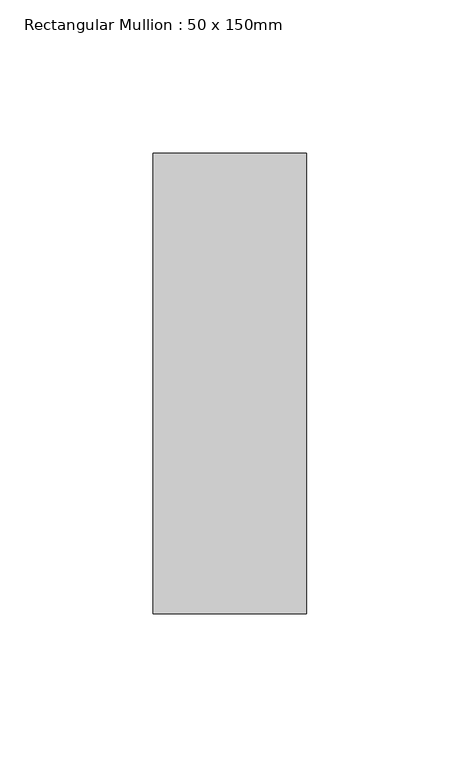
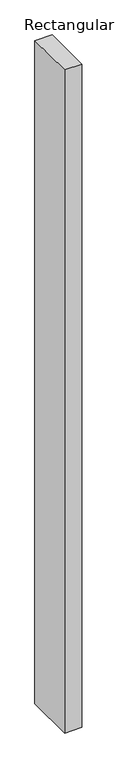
"""IFC4 building model written with IfcOpenShell, lengths in millimetres: member geometry, Rectangular Mullion : 50 x 150mm."""

from ifc_helpers import new_model, si_unit, frame, origin, place, context, project, spatial, polyline, outline, extrude, source, transform, mapped, element, save


def rectangular_mullion_50_x_150mm_0b18dce2(model_context):
    return source(origin(), model_context, "Body", "SweptSolid", [
        extrude(outline(polyline([(25.0, 75.0), (25.0, -75.0), (-25.0, -75.0), (-25.0, 75.0), (25.0, 75.0)])), frame((0.0, 0.0, -2050.0), z_axis=(0.0, 0.0, 1.0), x_axis=(1.0, 0.0, 0.0)), (0.0, 0.0, 1.0), 2050.0),
    ])


if __name__ == "__main__":
    model = new_model("IFC4")
    model_context = context("Model", 3, world=origin())
    ifc_project = project(units=[si_unit("LENGTHUNIT", "METRE", prefix="MILLI")], contexts=[model_context])
    site = spatial("IfcSite", under=ifc_project)
    building = spatial("IfcBuilding", under=site)
    placement = place(None, origin())
    rectangular_mullion_50_x_150mm_shape = rectangular_mullion_50_x_150mm_0b18dce2(model_context)
    element("IfcMember", 1, ObjectType="Rectangular Mullion : 50 x 150mm", at=placement, inside=building, context=model_context, shape_type="MappedRepresentation", body=[
        mapped(rectangular_mullion_50_x_150mm_shape, transform((0.0, 0.0, 0.0), x_axis=(1.0, 0.0, 0.0), y_axis=(0.0, 1.0, 0.0), z_axis=(0.0, 0.0, 1.0))),
    ])
    save(model, "model.ifc")
